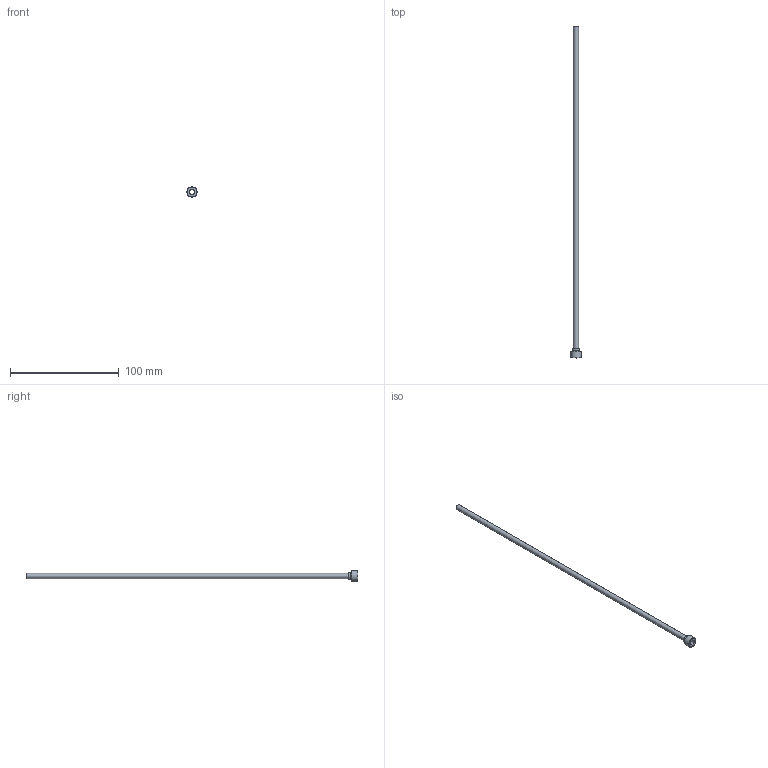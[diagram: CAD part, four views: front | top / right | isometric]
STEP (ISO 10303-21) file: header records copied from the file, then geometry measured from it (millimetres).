
FILE_DESCRIPTION(/* description */ (''),/* implementation_level */ '2;1');
FILE_NAME(/* name */ 'C:/Users/drich/Desktop/PT18-187-12 v1.step',/* time_stamp */ '2019-12-27T15:43:38-06:00',/* author */ (''),/* organization */ (''),/* preprocessor_version */ 'ST-DEVELOPER v18',/* originating_system */ 'Autodesk Translation Framework v8.12.0.6',/* authorisation */ '');
FILE_SCHEMA (('AUTOMOTIVE_DESIGN { 1 0 10303 214 3 1 1 }'));
Length unit declared in the file: inch
Products named in the file (1): PT18-187-12
Bounding box: 9.62 x 304.8 x 9.62 mm (x, y, z)
Volume: 1389.8 mm3; surface area: 8807.4 mm2
Topology: 1 solids, 1 shells, 19 faces, 48 edges, 34 vertices
Faces by surface type: plane 11, cylinder 4, torus 2, cone 2
Full cylindrical faces by diameter (mm): 4.242 x1, 4.724 x1, 6.35 x1, 9.621 x1
Entity records: 633 total; most frequent: DIRECTION 112, CARTESIAN_POINT 102, ORIENTED_EDGE 96, EDGE_CURVE 48, AXIS2_PLACEMENT_3D 44, VERTEX_POINT 34, CIRCLE 24, EDGE_LOOP 24
